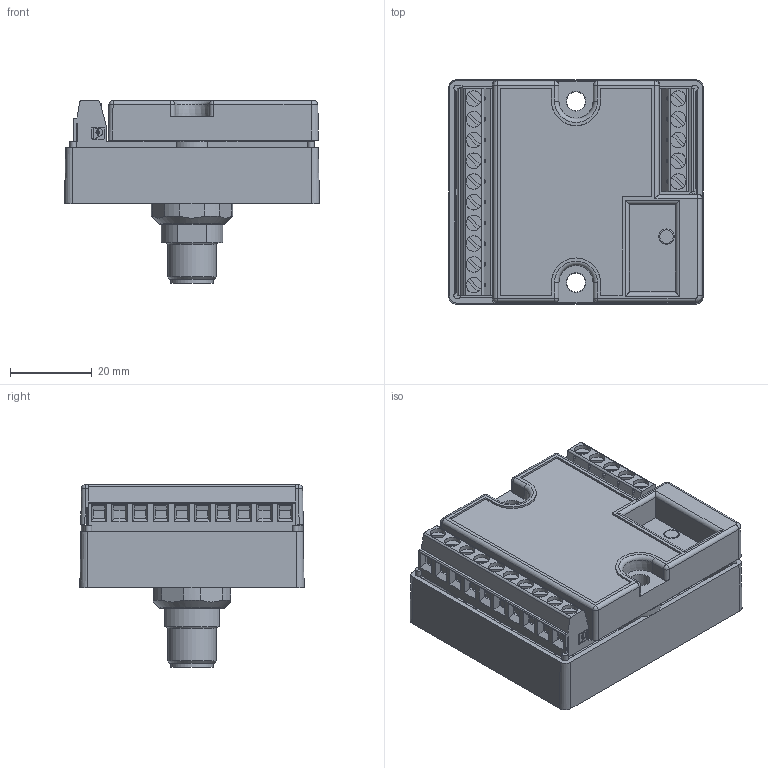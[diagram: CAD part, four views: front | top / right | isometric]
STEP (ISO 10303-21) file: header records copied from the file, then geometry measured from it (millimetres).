
FILE_DESCRIPTION(/* description */ (''),/* implementation_level */ '2;1');
FILE_NAME(/* name */ 'L:\CAD Inventor\Workspace\Catalogs\TURCK BOXES\FIL20-8DXP-E.stp',/* time_stamp */ '2021-01-21T10:26:47-06:00',/* author */ ('RSwans'),/* organization */ (''),/* preprocessor_version */ 'ST-DEVELOPER v16.5',/* originating_system */ 'Autodesk Inventor 2017',/* authorisation */ '');
FILE_SCHEMA (('AUTOMOTIVE_DESIGN { 1 0 10303 214 3 1 1 }'));
Length unit declared in the file: inch
Products named in the file (1): Part12
Bounding box: 62.48 x 55 x 44.82 mm (x, y, z)
Volume: 38557.5 mm3; surface area: 37463.5 mm2
Topology: 1 solids, 4 shells, 1164 faces, 3022 edges, 1965 vertices
Faces by surface type: plane 873, cylinder 170, cone 89, sphere 23, torus 8, bspline 1
Full cylindrical faces by diameter (mm): 0.457 x2, 1 x4, 1.2 x4, 3 x3, 3.8 x15, 3.83 x15, 4.859 x4, 8 x1, 8.3 x1, 9 x1, 9.45 x2, 9.6 x1, 9.9 x1, 10 x1, 10.5 x1, 12 x1, 15.8 x1, 18.5 x1, 18.75 x1
Entity records: 35867 total; most frequent: CARTESIAN_POINT 6203, ORIENTED_EDGE 5812, DIRECTION 5798, EDGE_CURVE 2906, LINE 2152, VECTOR 2152, VERTEX_POINT 1934, AXIS2_PLACEMENT_3D 1823
